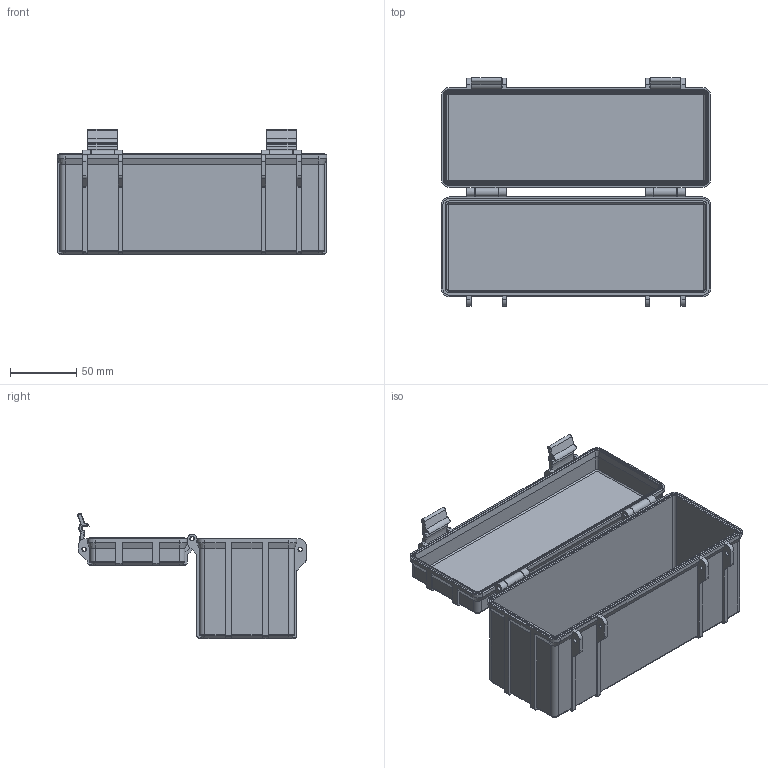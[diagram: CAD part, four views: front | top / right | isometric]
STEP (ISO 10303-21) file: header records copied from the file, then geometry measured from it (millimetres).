
FILE_DESCRIPTION(/* description */ (''),/* implementation_level */ '2;1');
FILE_NAME(/* name */ '18650 50pcs v4.step',/* time_stamp */ '2022-12-05T21:44:18+01:00',/* author */ (''),/* organization */ (''),/* preprocessor_version */ 'ST-DEVELOPER v19.2',/* originating_system */ 'Autodesk Translation Framework v11.17.0.187',/* authorisation */ '');
FILE_SCHEMA (('AUTOMOTIVE_DESIGN { 1 0 10303 214 3 1 1 }'));
Length unit declared in the file: millimetre
Products named in the file (7): Rugged Box V2 - 18650 50pcs; Box; Box (1); Box Latch; Lid; Box Lid; Seal
Assembly tree (6 placements, depth 3):
  Rugged Box V2 - 18650 50pcs
    Box
      Box (1)
      Box Latch
    Lid
      Box Lid
    Seal
Bounding box: 203.52 x 172.51 x 94.48 mm (x, y, z)
Volume: 210039.9 mm3; surface area: 175162.6 mm2
Topology: 5 solids, 5 shells, 702 faces, 1870 edges, 1184 vertices
Faces by surface type: plane 338, cylinder 272, cone 76, torus 16
Full cylindrical faces by diameter (mm): 2.85 x6, 3.2 x2, 3.4 x8
Entity records: 22075 total; most frequent: DIRECTION 3898, CARTESIAN_POINT 3890, ORIENTED_EDGE 3740, EDGE_CURVE 1870, AXIS2_PLACEMENT_3D 1352, LINE 1194, VECTOR 1194, VERTEX_POINT 1184
